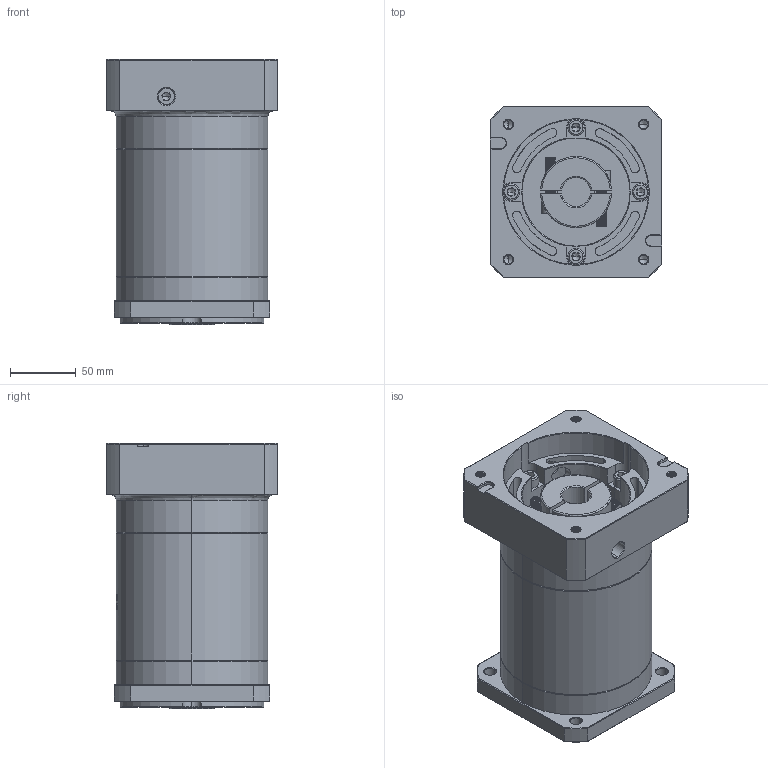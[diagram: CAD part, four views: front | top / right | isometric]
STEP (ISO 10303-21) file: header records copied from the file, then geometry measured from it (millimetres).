
FILE_DESCRIPTION (( 'STEP AP214' ), '1' );
FILE_NAME ('ZF120A-K25-L3-P2-22-110-145-M8.step', '2023-08-27T04:53:17', ( '' ), ( '' ), 'SwSTEP 2.0', 'SolidWorks 2016', '' );
FILE_SCHEMA (( 'AUTOMOTIVE_DESIGN' ));
Length unit declared in the file: millimetre
Products named in the file (1): ZF120A-K25-L3-P2-22-110-145-M8
Bounding box: 130 x 130 x 201 mm (x, y, z)
Volume: 2000583.5 mm3; surface area: 200985.6 mm2
Topology: 6 solids, 6 shells, 2220 faces, 5936 edges, 3815 vertices
Faces by surface type: plane 1053, cylinder 416, bspline 412, cone 321, torus 18
Entity records: 120903 total; most frequent: CARTESIAN_POINT 46285, ORIENTED_EDGE 11816, DIRECTION 8628, EDGE_CURVE 5908, VERTEX_POINT 3815, LINE 3120, VECTOR 3120, AXIS2_PLACEMENT_3D 2754
